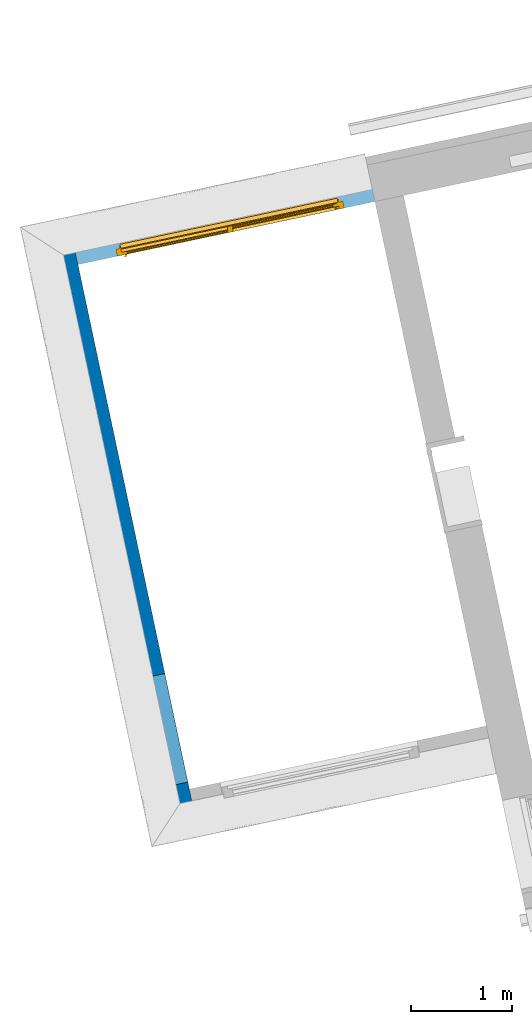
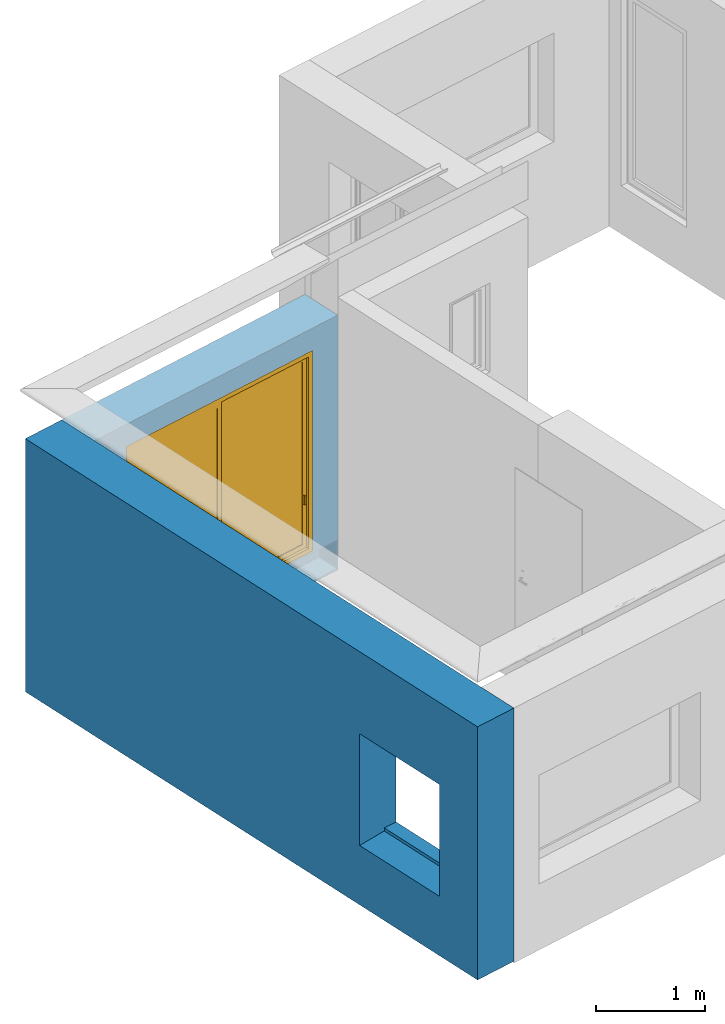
"""IFC2X3 building model written with IfcOpenShell, lengths in centimetres."""

from ifc_helpers import new_model, entity, si_unit, converted_unit, derived_unit, direction, frame, frame_2d, origin, place, context, subcontext, project, spatial, rectangle, extrude, faceted_brep, source, transform, mapped, material, material_list, layer, layer_set, layer_usage, type_object, type_shapes, element, fill, save


model = new_model("IFC2X3")

# Units and contexts
model_context = context("Model", 3, precision=0.001, world=origin(), true_north=direction((6.12303176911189e-17, 1.0)))
body_context = subcontext(model_context, "Body", "Model", "MODEL_VIEW")
ifc_project = project(units=[si_unit("LENGTHUNIT", "METRE", prefix="CENTI"), si_unit("AREAUNIT", "SQUARE_METRE"), si_unit("VOLUMEUNIT", "CUBIC_METRE"), converted_unit("PLANEANGLEUNIT", "DEGREE", entity("IfcRatioMeasure", 0.0174532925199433), si_unit("PLANEANGLEUNIT", "RADIAN"), dimensions=[0, 0, 0, 0, 0, 0, 0]), si_unit("MASSUNIT", "GRAM", prefix="KILO"), derived_unit("MASSDENSITYUNIT", [(si_unit("MASSUNIT", "GRAM", prefix="KILO"), 1), (si_unit("LENGTHUNIT", "METRE"), -3)]), derived_unit("IONCONCENTRATIONUNIT", [(si_unit("MASSUNIT", "GRAM", prefix="KILO"), 1), (si_unit("LENGTHUNIT", "METRE"), -3)]), derived_unit("MOMENTOFINERTIAUNIT", [(si_unit("LENGTHUNIT", "METRE"), 4)]), si_unit("TIMEUNIT", "SECOND"), si_unit("FREQUENCYUNIT", "HERTZ"), si_unit("THERMODYNAMICTEMPERATUREUNIT", "DEGREE_CELSIUS"), derived_unit("THERMALTRANSMITTANCEUNIT", [(si_unit("MASSUNIT", "GRAM", prefix="KILO"), 1), (si_unit("THERMODYNAMICTEMPERATUREUNIT", "KELVIN"), -1), (si_unit("TIMEUNIT", "SECOND"), -3)]), derived_unit("THERMALCONDUCTANCEUNIT", [(si_unit("MASSUNIT", "GRAM", prefix="KILO"), 1), (si_unit("THERMODYNAMICTEMPERATUREUNIT", "KELVIN"), -1), (si_unit("TIMEUNIT", "SECOND"), -3), (si_unit("LENGTHUNIT", "METRE"), 1)]), derived_unit("VOLUMETRICFLOWRATEUNIT", [(si_unit("LENGTHUNIT", "METRE"), 3), (si_unit("TIMEUNIT", "SECOND"), -1)]), derived_unit("MASSFLOWRATEUNIT", [(si_unit("MASSUNIT", "GRAM", prefix="KILO"), 1), (si_unit("TIMEUNIT", "SECOND"), -1)]), derived_unit("ROTATIONALFREQUENCYUNIT", [(si_unit("TIMEUNIT", "SECOND"), -1)]), si_unit("ELECTRICCURRENTUNIT", "AMPERE"), si_unit("ELECTRICVOLTAGEUNIT", "VOLT"), si_unit("POWERUNIT", "WATT"), si_unit("FORCEUNIT", "NEWTON", prefix="KILO"), si_unit("ILLUMINANCEUNIT", "LUX"), si_unit("LUMINOUSFLUXUNIT", "LUMEN"), si_unit("LUMINOUSINTENSITYUNIT", "CANDELA"), derived_unit("USERDEFINED", [(si_unit("MASSUNIT", "GRAM", prefix="KILO"), -1), (si_unit("LENGTHUNIT", "METRE"), -2), (si_unit("TIMEUNIT", "SECOND"), 3), (si_unit("LUMINOUSFLUXUNIT", "LUMEN"), 1)]), derived_unit("USERDEFINED", [(si_unit("MASSUNIT", "GRAM", prefix="KILO"), 1), (si_unit("TIMEUNIT", "SECOND"), -3), (si_unit("LENGTHUNIT", "METRE"), 3), (si_unit("ELECTRICCURRENTUNIT", "AMPERE"), -2)]), derived_unit("SOUNDPOWERUNIT", [(si_unit("MASSUNIT", "GRAM", prefix="KILO"), 1), (si_unit("TIMEUNIT", "SECOND"), -3), (si_unit("LENGTHUNIT", "METRE"), 2)]), derived_unit("SOUNDPRESSUREUNIT", [(si_unit("MASSUNIT", "GRAM", prefix="KILO"), 1), (si_unit("LENGTHUNIT", "METRE"), -1), (si_unit("TIMEUNIT", "SECOND"), -2)]), derived_unit("LINEARVELOCITYUNIT", [(si_unit("LENGTHUNIT", "METRE"), 1), (si_unit("TIMEUNIT", "SECOND"), -1)]), si_unit("PRESSUREUNIT", "PASCAL"), derived_unit("USERDEFINED", [(si_unit("MASSUNIT", "GRAM", prefix="KILO"), 1), (si_unit("LENGTHUNIT", "METRE"), -2), (si_unit("TIMEUNIT", "SECOND"), -2)]), derived_unit("LINEARFORCEUNIT", [(si_unit("MASSUNIT", "GRAM", prefix="KILO"), 1), (si_unit("TIMEUNIT", "SECOND"), -2)]), derived_unit("PLANARFORCEUNIT", [(si_unit("MASSUNIT", "GRAM", prefix="KILO"), 1), (si_unit("LENGTHUNIT", "METRE"), -1), (si_unit("TIMEUNIT", "SECOND"), -2)]), derived_unit("SPECIFICHEATCAPACITYUNIT", [(si_unit("THERMODYNAMICTEMPERATUREUNIT", "KELVIN"), -1), (si_unit("LENGTHUNIT", "METRE"), 2), (si_unit("TIMEUNIT", "SECOND"), -2)]), derived_unit("HEATINGVALUEUNIT", [(si_unit("LENGTHUNIT", "METRE"), 2), (si_unit("TIMEUNIT", "SECOND"), -2)]), derived_unit("VAPORPERMEABILITYUNIT", [(si_unit("LENGTHUNIT", "METRE"), -1), (si_unit("TIMEUNIT", "SECOND"), 1)]), derived_unit("DYNAMICVISCOSITYUNIT", [(si_unit("MASSUNIT", "GRAM", prefix="KILO"), 1), (si_unit("TIMEUNIT", "SECOND"), -1), (si_unit("LENGTHUNIT", "METRE"), -1)]), derived_unit("THERMALEXPANSIONCOEFFICIENTUNIT", [(si_unit("THERMODYNAMICTEMPERATUREUNIT", "KELVIN"), -1)]), derived_unit("MODULUSOFELASTICITYUNIT", [(si_unit("MASSUNIT", "GRAM", prefix="KILO"), 1), (si_unit("LENGTHUNIT", "METRE"), -1), (si_unit("TIMEUNIT", "SECOND"), -2)]), derived_unit("ISOTHERMALMOISTURECAPACITYUNIT", [(si_unit("LENGTHUNIT", "METRE"), 3), (si_unit("MASSUNIT", "GRAM", prefix="KILO"), -1)]), derived_unit("MOISTUREDIFFUSIVITYUNIT", [(si_unit("TIMEUNIT", "SECOND"), -1), (si_unit("LENGTHUNIT", "METRE"), 2)])], contexts=[model_context])

# Site, building, storey
site_placement = place(None, frame((14083.8920177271, -6853.25409548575, 6900.0), z_axis=(0.0, 0.0, 1.0), x_axis=(0.978188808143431, 0.207717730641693, 0.0)))
site = spatial("IfcSite", under=ifc_project, at=site_placement, Name="Surface", CompositionType="ELEMENT")
building_placement = place(site_placement, origin())
building = spatial("IfcBuilding", under=site, at=building_placement, CompositionType="ELEMENT")
storey_1_placement = place(building_placement, frame((0.0, 0.0, -17.0)))
storey_1 = spatial("IfcBuildingStorey", under=building, at=storey_1_placement, Name="Rez de chaussée (SD)", CompositionType="ELEMENT", Elevation=-16.9999999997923)

# Wall
ifc_material_1 = material(Name="__ PIERRE______________________TEST")
ifc_layer_1 = layer(ifc_material_1, 10.0)
ifc_material_2 = material(Name="__ BETON_parpaings")
ifc_layer_2 = layer(ifc_material_2, 20.0)
ifc_material_3 = material(Name="__ ISOLANT (pat 1)")
ifc_layer_3 = layer(ifc_material_3, 13.0)
ifc_material_4 = material(Name="__ ENDUIT_Blanc")
ifc_layer_4 = layer(ifc_material_4, 2.0)
ifc_layer_set = layer_set([ifc_layer_1, ifc_layer_2, ifc_layer_3, ifc_layer_4], Name="Mur de base:*Mur (45) maçonné isolé + parement pierre")
wall_type = type_object("IfcWallType", Name="Mur de base:*Mur (45) maçonné isolé + parement pierre", PredefinedType="STANDARD", material=ifc_layer_set)
wall_1_placement = place(storey_1_placement, frame((-8060.2551432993, 14837.6724778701, 2.0), z_axis=(0.0, 0.0, 1.0), x_axis=(0.0, 1.0, 0.0)))
element("IfcWall", 1, at=wall_1_placement, inside=storey_1, type_object=wall_type, Name="Mur de base:*Mur (45) maçonné isolé + parement pierre", ObjectType="Mur de base:*Mur (45) maçonné isolé + parement pierre", context=body_context, shape_type="Brep", body=[
    faceted_brep([(621.266666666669, -22.5000000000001, 284.0), (576.266666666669, -22.5000000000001, 284.0), (45.0, -22.5000000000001, 284.0), (0.0, -22.5000000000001, 284.0), (0.0, -22.5000000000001, 0.0), (20.0, -22.5000000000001, 0.0), (20.0, -22.5000000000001, 32.0), (45.0, -22.5000000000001, 32.0), (576.266666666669, -22.5000000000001, 32.0), (601.266666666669, -22.5000000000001, 32.0), (601.266666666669, -22.5000000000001, 0.0), (621.266666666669, -22.5000000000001, 0.0), (162.0, -22.5000000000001, 192.0), (162.0, -22.5000000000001, 72.0), (52.0, -22.5000000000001, 72.0), (52.0, -22.5000000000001, 192.0), (621.266666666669, 22.5000000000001, 0.0), (0.0, 22.5000000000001, 0.0), (0.0, 22.5000000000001, 284.0), (621.266666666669, 22.5000000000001, 284.0), (162.0, 22.5000000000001, 72.0), (162.0, 22.5000000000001, 192.0), (52.0, 22.5000000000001, 192.0), (52.0, 22.5000000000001, 72.0), (52.0, 22.5000000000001, 66.5584398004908), (162.0, 22.5000000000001, 66.5584398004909), (601.266666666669, 3.69999999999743, 0.0), (20.0, 3.70000000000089, 0.0), (20.0, 3.70000000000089, 32.0), (601.266666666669, 3.69999999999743, 32.0), (162.0, -8.0, 72.0), (162.0, -19.4999999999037, 192.0), (162.0, -19.4999999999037, 212.0), (162.0, -9.19999999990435, 212.0), (162.0, -9.19999999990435, 192.0), (162.0, -5.50251168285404, 68.5006412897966), (162.0, -8.0, 68.5006412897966), (52.0, -8.0, 72.0), (52.0, -8.0, 68.5006412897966), (52.0, -5.50251168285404, 68.5006412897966), (52.0, 10.8000000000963, 192.0), (52.0, 10.8000000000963, 192.1), (52.0, 10.7000000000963, 192.1), (52.0, 10.7000000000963, 192.0), (52.0, -9.19999999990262, 192.0), (52.0, -9.19999999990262, 212.0), (52.0, -19.4999999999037, 212.0), (52.0, -19.4999999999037, 192.0), (52.1000000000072, 10.8000000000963, 192.0), (52.1000000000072, 10.7000000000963, 192.0), (52.1000000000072, 10.7000000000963, 192.1), (52.1000000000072, 10.8000000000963, 192.1)], [[[0, 1, 2, 3, 4, 5, 6, 7, 8, 9, 10, 11], [12, 13, 14, 15]], [[16, 17, 18, 19], [20, 21, 22, 23, 24, 25]], [[17, 16, 11, 10, 26, 27, 5, 4]], [[3, 2, 1, 0, 19, 18]], [[0, 11, 16, 19]], [[4, 3, 18, 17]], [[28, 29, 9, 8, 7, 6]], [[29, 28, 27, 26]], [[29, 26, 10, 9]], [[27, 28, 6, 5]], [[30, 13, 12, 31, 32, 33, 34, 21, 20, 25, 35, 36]], [[13, 30, 37, 14]], [[14, 37, 38, 39, 24, 23, 22, 40, 41, 42, 43, 44, 45, 46, 47, 15]], [[31, 12, 15, 47]], [[36, 35, 39, 38]], [[30, 36, 38, 37]], [[39, 35, 25, 24]], [[48, 49, 50, 51]], [[42, 41, 51, 50]], [[41, 40, 48, 51]], [[43, 42, 50, 49]], [[32, 31, 47, 46]], [[33, 32, 46, 45]], [[34, 33, 45, 44]], [[21, 34, 44, 43, 49, 48, 40, 22]]]),
])

# Wall, openings
ifc_layer_usage = layer_usage(ifc_layer_set, "AXIS2", "NEGATIVE", 22.5)
wall_2_placement = place(storey_1_placement, frame((-8037.7551432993, 15436.4391445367, 0.0)))
wall_2 = element("IfcWallStandardCase", 2, at=wall_2_placement, inside=storey_1, type_object=wall_type, material=ifc_layer_usage, Name="Mur de base:*Mur (45) maçonné isolé + parement pierre", ObjectType="Mur de base:*Mur (45) maçonné isolé + parement pierre", context=body_context, shape_type="SweptSolid", body=[
    extrude(rectangle(XDim=300.800000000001, YDim=45.0000000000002, at=frame_2d((150.4, 0.0), x_axis=(-1.0, 0.0))), origin(), (0.0, 0.0, 1.0), 285.999999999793),
])
opening_1_placement = place(storey_1_placement, frame((-8037.7551432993, 15436.4391445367, 0.0)))
element("IfcOpeningElement", 3, at=opening_1_placement, cuts=wall_2, Name="Mur de base:*Mur (45) maçonné isolé + parement pierre:1", ObjectType="Opening", context=body_context, shape_type="SweptSolid", body=[
    extrude(rectangle(XDim=300.000000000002, YDim=24.9999999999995, at=frame_2d((-4.40536496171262e-13, 8.66862137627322e-13), x_axis=(1.0, 0.0))), frame((150.0, -10.0, 2.0), z_axis=(0.0, 0.0, 1.0), x_axis=(-1.0, 0.0, 0.0)), (0.0, 0.0, 1.0), 32.0),
])
opening_2_placement = place(wall_2_placement, frame((39.7999999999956, -50.0, 27.7207768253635)))
opening_2 = element("IfcOpeningElement", 4, at=opening_2_placement, cuts=wall_2, Name="Mur de base:*Mur (45) maçonné isolé + parement pierre", ObjectType="Opening", context=body_context, shape_type="Brep", body=[
    faceted_brep([(225.0, 0.0, 8.2792231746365), (225.0, 0.0, 228.279223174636), (5.0, 0.0, 228.279223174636), (5.0, 0.0, 8.2792231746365), (225.0, 27.5000000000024, 228.279223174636), (5.0, 27.5000000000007, 228.279223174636), (225.0, 27.5000000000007, 8.2792231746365), (230.0, 27.5000000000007, 8.2792231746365), (230.0, 27.5000000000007, 233.279223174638), (0.0, 27.5000000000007, 233.279223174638), (0.0, 27.5000000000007, 8.2792231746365), (5.0, 27.5000000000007, 8.2792231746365), (225.0, 35.4999999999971, 8.2792231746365), (225.0, 35.4999999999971, 6.7792231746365), (225.0, 100.0, 0.0), (225.0, 100.0, 228.279223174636), (225.0, 37.4999999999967, 228.279223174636), (225.0, 37.4999999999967, 8.2792231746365), (0.0, 34.5000000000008, 8.2792231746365), (4.0, 34.5000000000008, 8.2792231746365), (4.0, 37.4999999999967, 8.2792231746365), (5.0, 37.4999999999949, 8.27922317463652), (5.0, 35.4999999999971, 8.2792231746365), (226.0, 37.4999999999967, 8.2792231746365), (226.0, 34.5000000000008, 8.2792231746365), (230.0, 34.5000000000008, 8.2792231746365), (5.0, 100.0, 0.0), (5.0, 100.0, 228.279223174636), (5.0, 35.4999999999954, 6.7792231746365), (230.0, 34.5000000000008, 233.279223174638), (226.0, 34.5000000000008, 229.279223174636), (4.0, 34.5000000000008, 229.279223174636), (0.0, 34.5000000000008, 233.279223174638), (226.0, 37.4999999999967, 229.279223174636), (5.0, 37.4999999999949, 228.279223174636), (4.0, 37.4999999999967, 229.279223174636)], [[[0, 1, 2, 3]], [[2, 1, 4, 5]], [[6, 7, 8, 9, 10, 11, 5, 4]], [[12, 13, 14, 15, 16, 17]], [[3, 2, 5, 11]], [[0, 3, 11, 10, 18, 19, 20, 21, 22, 12, 17, 23, 24, 25, 7, 6]], [[15, 14, 26, 27]], [[14, 13, 28, 26]], [[13, 12, 22, 28]], [[7, 25, 29, 8]], [[25, 24, 30, 31, 19, 18, 32, 29]], [[24, 23, 33, 30]], [[23, 17, 16, 34, 21, 20, 35, 33]], [[8, 29, 32, 9]], [[31, 30, 33, 35]], [[32, 18, 10, 9]], [[19, 31, 35, 20]], [[27, 26, 28, 22, 21, 34]], [[1, 0, 6, 4]], [[15, 27, 34, 16]]]),
])

# Storey
storey_2_placement = place(building_placement, frame((0.0, 0.0, 17.0)))
storey_2 = spatial("IfcBuildingStorey", under=building, at=storey_2_placement, Name="Rez de chaussée", CompositionType="ELEMENT", Elevation=17.0000000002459)

# Window
ifc_material_5 = material(Name="Fenêtre - Poignée")
ifc_material_6 = material(Name="Fenêtre - Appui")
ifc_material_7 = material(Name="Fenêtre - Vitrage")
ifc_material_8 = material(Name="__ METAL_gris foncé (menuiseries acier)______________________TEST")
ifc_material_9 = material(Name="Fenêtre - Cadre")
ifc_material_list = material_list([ifc_material_5, ifc_material_6, ifc_material_7, ifc_material_8, ifc_material_9])
window_style = type_object("IfcWindowStyle", Name="2 Vantaux coulissants - Droits:c 220x220 +VR", ConstructionType="NOTDEFINED", OperationType="DOUBLE_PANEL_VERTICAL", ParameterTakesPrecedence=False, Sizeable=False, material=ifc_material_list)
shared_shape = source(origin(), body_context, "Body", "Brep", [
    faceted_brep([(222.0, -26.0, 63.2792231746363), (222.904778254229, -26.0, 63.2792231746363), (222.904778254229, -26.4999999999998, 63.2792231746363), (221.246868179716, -26.4999999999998, 63.2792231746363), (221.0, -26.2531318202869, 63.2792231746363), (221.0, -24.4999999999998, 63.2792231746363), (222.0, -24.4999999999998, 63.2792231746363), (221.0, -24.4999999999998, 73.279223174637), (221.0, -26.2531318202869, 73.279223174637), (221.246868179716, -26.4999999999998, 73.279223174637), (222.904778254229, -26.4999999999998, 73.279223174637), (222.904778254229, -26.0, 73.279223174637), (222.0, -26.0, 73.279223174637), (222.0, -24.4999999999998, 73.279223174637), (223.325663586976, -26.0, 73.1048867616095), (223.500000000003, -26.0, 72.6840014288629), (223.500000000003, -26.0, 63.8744449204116), (223.325663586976, -26.0, 63.4535595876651), (223.500000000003, -26.4999999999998, 63.8744449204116), (223.500000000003, -26.4999999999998, 72.6840014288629), (223.325663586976, -26.4999999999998, 63.4535595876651), (223.325663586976, -26.4999999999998, 73.1048867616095)], [[[0, 1, 2, 3, 4, 5, 6]], [[7, 8, 9, 10, 11, 12, 13]], [[5, 4, 8, 7]], [[6, 5, 7, 13]], [[0, 6, 13, 12]], [[1, 0, 12, 11, 14, 15, 16, 17]], [[18, 16, 15, 19]], [[20, 18, 19, 21, 10, 9, 3, 2]], [[4, 3, 9, 8]], [[10, 21, 14, 11]], [[14, 21, 19, 15]], [[18, 20, 17, 16]], [[17, 20, 2, 1]]]),
    faceted_brep([(8.75313182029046, -29.5000000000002, 63.2792231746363), (7.0952217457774, -29.5000000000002, 63.2792231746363), (7.0952217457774, -29.0, 63.2792231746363), (8.0, -29.0, 63.2792231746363), (8.0, -27.5000000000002, 63.2792231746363), (9.0, -27.5000000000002, 63.2792231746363), (9.0, -29.2531318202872, 63.2792231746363), (8.0, -27.5000000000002, 73.279223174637), (8.0, -29.0, 73.279223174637), (7.09522174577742, -29.0, 73.279223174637), (7.09522174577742, -29.5000000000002, 73.279223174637), (8.75313182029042, -29.5000000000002, 73.279223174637), (9.0, -29.2531318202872, 73.279223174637), (9.0, -27.5000000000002, 73.279223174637), (6.50000000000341, -29.0, 63.8744449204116), (6.50000000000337, -29.0, 72.6840014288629), (6.6743364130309, -29.0, 73.1048867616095), (6.67433641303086, -29.0, 63.4535595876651), (6.50000000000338, -29.5000000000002, 72.6840014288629), (6.50000000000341, -29.5000000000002, 63.8744449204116), (6.6743364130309, -29.5000000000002, 73.1048867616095), (6.67433641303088, -29.5000000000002, 63.4535595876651)], [[[0, 1, 2, 3, 4, 5, 6]], [[7, 8, 9, 10, 11, 12, 13]], [[12, 6, 5, 13]], [[13, 5, 4, 7]], [[7, 4, 3, 8]], [[14, 15, 16, 9, 8, 3, 2, 17]], [[18, 15, 14, 19]], [[1, 0, 11, 10, 20, 18, 19, 21]], [[11, 0, 6, 12]], [[9, 16, 20, 10]], [[15, 18, 20, 16]], [[14, 17, 21, 19]], [[2, 1, 21, 17]]]),
    faceted_brep([(5.0, 19.0, 3.25823129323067), (5.0, 19.0, 1.70265964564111), (5.0, 18.5000000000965, 1.75521176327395), (5.0, 18.5000000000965, 2.78526223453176), (5.0, -19.4999999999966, 6.77922317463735), (5.0, -19.4999999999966, 8.27922317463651), (5.0, -19.0, 8.27922317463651), (5.0, -19.0, 7.25219223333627), (225.0, 19.0, 3.25823129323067), (225.0, -19.0, 7.25219223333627), (225.0, -19.0, 8.27922317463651), (225.0, -19.4999999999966, 8.27922317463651), (225.0, -19.4999999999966, 6.77922317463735), (225.0, 18.5000000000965, 2.78526223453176), (225.0, 18.5000000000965, 1.75521176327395), (225.0, 19.0, 1.70265964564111)], [[[0, 1, 2, 3, 4, 5, 6, 7]], [[8, 9, 10, 11, 12, 13, 14, 15]], [[7, 9, 8, 0]], [[6, 10, 9, 7]], [[5, 11, 10, 6]], [[4, 12, 11, 5]], [[3, 13, 12, 4]], [[2, 14, 13, 3]], [[1, 15, 14, 2]], [[0, 8, 15, 1]]]),
    faceted_brep([(225.0, 18.8972579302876, 3.66847605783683), (225.0, 18.6418113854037, 3.7986325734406), (225.0, -19.0, 7.75494637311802), (225.0, -19.0, 7.25219223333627), (225.0, 19.0, 3.25823129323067), (225.0, 19.0, 3.40082381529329), (224.500000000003, 18.6418113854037, 3.7986325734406), (224.500000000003, 18.8972579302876, 3.66847605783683), (224.500000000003, 19.0, 3.40082381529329), (224.500000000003, 19.0, 3.25823129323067), (224.500000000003, -19.0, 7.25219223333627), (224.500000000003, -19.0, 7.75494637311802)], [[[0, 1, 2, 3, 4, 5]], [[6, 7, 8, 9, 10, 11]], [[9, 4, 3, 10]], [[10, 3, 2, 11]], [[11, 2, 1, 6]], [[0, 7, 6, 1]], [[5, 8, 7, 0]], [[8, 5, 4, 9]]]),
    faceted_brep([(5.50000000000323, 18.8972579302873, 3.66847605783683), (5.50000000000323, 18.6418113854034, 3.7986325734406), (5.5000000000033, -19.0, 7.75494637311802), (5.5000000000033, -19.0, 7.25219223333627), (5.50000000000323, 19.0, 3.25823129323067), (5.50000000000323, 19.0, 3.40082381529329), (5.0, 18.6418113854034, 3.7986325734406), (5.0, 18.8972579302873, 3.66847605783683), (5.0, 19.0, 3.40082381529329), (5.0, 19.0, 3.25823129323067), (5.0, -19.0, 7.25219223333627), (5.0, -19.0, 7.75494637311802)], [[[0, 1, 2, 3, 4, 5]], [[6, 7, 8, 9, 10, 11]], [[9, 4, 3, 10]], [[10, 3, 2, 11]], [[11, 2, 1, 6]], [[0, 7, 6, 1]], [[5, 8, 7, 0]], [[8, 5, 4, 9]]]),
    faceted_brep([(117.500000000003, -22.4000000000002, 223.279223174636), (220.0, -22.3999999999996, 223.279223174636), (220.0, -22.3999999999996, 18.2792231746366), (117.500000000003, -22.4000000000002, 18.2792231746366), (117.500000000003, -23.6000000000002, 18.2792231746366), (117.500000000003, -23.6000000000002, 223.279223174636), (220.0, -23.5999999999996, 18.2792231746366), (220.0, -23.5999999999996, 223.279223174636)], [[[0, 1, 2, 3]], [[3, 4, 5, 0]], [[2, 6, 4, 3]], [[1, 7, 6, 2]], [[5, 4, 6, 7]], [[0, 5, 7, 1]]]),
    faceted_brep([(112.500000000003, -21.5000000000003, 228.279223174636), (112.500000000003, -21.5000000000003, 13.2792231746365), (112.500000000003, -24.5000000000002, 13.2792231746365), (112.500000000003, -24.5000000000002, 228.279223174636), (225.0, -21.5, 13.2792231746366), (225.0, -24.4999999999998, 13.2792231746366), (225.0, -24.4999999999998, 228.279223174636), (220.0, -24.4999999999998, 18.2792231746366), (117.500000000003, -24.5000000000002, 18.2792231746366), (117.500000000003, -24.5000000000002, 223.279223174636), (220.0, -24.4999999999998, 223.279223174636), (225.0, -21.5, 228.279223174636), (117.500000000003, -21.5000000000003, 18.2792231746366), (220.0, -21.5, 18.2792231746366), (220.0, -21.5, 223.279223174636), (117.500000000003, -21.5000000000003, 223.279223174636)], [[[0, 1, 2, 3]], [[1, 4, 5, 2]], [[2, 5, 6, 3], [7, 8, 9, 10]], [[4, 11, 6, 5]], [[4, 1, 0, 11], [12, 13, 14, 15]], [[9, 8, 12, 15]], [[8, 7, 13, 12]], [[7, 10, 14, 13]], [[11, 0, 3, 6]], [[10, 9, 15, 14]]]),
    faceted_brep([(112.500000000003, -25.4000000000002, 18.2792231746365), (10.0, -25.4000000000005, 18.2792231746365), (10.0, -25.4000000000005, 223.279223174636), (112.500000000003, -25.4000000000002, 223.279223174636), (112.500000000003, -26.6000000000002, 223.279223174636), (112.500000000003, -26.6000000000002, 18.2792231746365), (10.0, -26.6000000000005, 18.2792231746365), (10.0, -26.6000000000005, 223.279223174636)], [[[0, 1, 2, 3]], [[3, 4, 5, 0]], [[1, 6, 7, 2]], [[0, 5, 6, 1]], [[5, 4, 7, 6]], [[2, 7, 4, 3]]]),
    faceted_brep([(112.500000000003, -24.5, 223.279223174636), (112.500000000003, -24.5, 18.2792231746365), (112.500000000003, -27.4999999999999, 18.2792231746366), (112.500000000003, -27.4999999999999, 223.279223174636), (10.0, -24.5000000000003, 18.2792231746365), (10.0, -27.5000000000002, 18.2792231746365), (10.0, -27.5000000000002, 223.279223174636), (5.0, -27.5000000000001, 13.2792231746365), (117.500000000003, -27.4999999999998, 13.2792231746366), (117.500000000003, -27.4999999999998, 228.279223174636), (5.0, -27.5000000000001, 228.279223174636), (10.0, -24.5000000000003, 223.279223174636), (117.500000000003, -24.5, 13.2792231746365), (5.0, -24.5000000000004, 13.2792231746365), (5.0, -24.5000000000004, 228.279223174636), (117.500000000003, -24.5, 228.279223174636)], [[[0, 1, 2, 3]], [[1, 4, 5, 2]], [[2, 5, 6, 3], [7, 8, 9, 10]], [[4, 11, 6, 5]], [[4, 1, 0, 11], [12, 13, 14, 15]], [[9, 8, 12, 15]], [[8, 7, 13, 12]], [[7, 10, 14, 13]], [[11, 0, 3, 6]], [[10, 9, 15, 14]]], outer=[[True], [True], [False, True], [True], [False, True], [True], [True], [True], [True], [True]]),
    faceted_brep([(230.0, -27.5000000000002, 8.27922317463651), (0.0, -27.5000000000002, 8.27922317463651), (0.0, -20.5000000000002, 8.27922317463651), (5.0, -20.5000000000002, 8.27922317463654), (5.0, -17.5000000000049, 8.27922317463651), (225.0, -17.5000000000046, 8.27922317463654), (225.0, -20.5000000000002, 8.27922317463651), (230.0, -20.5000000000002, 8.27922317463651), (230.0, -20.5000000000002, 233.279223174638), (230.0, -27.5000000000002, 233.279223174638), (225.0, -20.5000000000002, 12.2168374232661), (5.0, -20.5000000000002, 12.2168374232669), (0.0, -20.5000000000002, 233.279223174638), (223.500000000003, -20.5000000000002, 226.779223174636), (6.50000000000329, -20.5000000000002, 226.779223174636), (6.50000000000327, -20.5000000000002, 14.7792231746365), (223.500000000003, -20.5000000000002, 14.7792231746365), (225.0, -17.5000000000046, 7.77922317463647), (225.0, -16.5000000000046, 7.77922317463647), (225.0, -16.5000000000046, 11.1450406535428), (5.0, -17.5000000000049, 7.77922317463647), (5.0, -16.5000000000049, 11.1450406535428), (5.0, -16.5000000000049, 7.77922317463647), (0.0, -27.5000000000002, 233.279223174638), (5.0, -27.5000000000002, 228.279223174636), (225.0, -27.5000000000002, 228.279223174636), (225.0, -27.5, 13.2792231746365), (5.0, -27.5000000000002, 13.2792231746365), (223.500000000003, -21.5000000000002, 14.7792231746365), (223.500000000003, -21.5000000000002, 226.779223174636), (6.50000000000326, -21.5000000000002, 14.7792231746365), (6.50000000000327, -21.5000000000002, 226.779223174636), (5.0, -21.5000000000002, 228.279223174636), (5.0, -21.5000000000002, 13.2792231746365), (225.0, -21.5000000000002, 13.2792231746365), (225.0, -21.5000000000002, 228.279223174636)], [[[0, 1, 2, 3, 4, 5, 6, 7]], [[7, 8, 9, 0]], [[7, 6, 10, 11, 3, 2, 12, 8], [13, 14, 15, 16]], [[10, 6, 5, 17, 18, 19]], [[5, 4, 20, 17]], [[4, 3, 11, 21, 22, 20]], [[2, 1, 23, 12]], [[0, 9, 23, 1], [24, 25, 26, 27]], [[13, 16, 28, 29]], [[28, 16, 15, 30]], [[31, 30, 15, 14]], [[19, 21, 11, 10]], [[29, 28, 30, 31], [32, 33, 34, 35]], [[34, 26, 25, 35]], [[26, 34, 33, 27]], [[24, 27, 33, 32]], [[18, 22, 21, 19]], [[17, 20, 22, 18]], [[13, 29, 31, 14]], [[12, 23, 9, 8]], [[35, 25, 24, 32]]], outer=[[True], [True], [True, False], [True], [True], [True], [True], [True, False], [True], [True], [True], [True], [False, True], [True], [True], [True], [True], [True], [True], [True], [True]]),
    faceted_brep([(225.0, -17.500000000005, 8.27922317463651), (226.0, -17.500000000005, 8.27922317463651), (226.0, -20.5000000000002, 8.27922317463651), (225.0, -20.5000000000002, 8.27922317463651), (225.0, -20.5000000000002, 228.279223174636), (225.0, -17.500000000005, 228.279223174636), (226.0, -20.5000000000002, 229.279223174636), (4.0, -20.5000000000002, 229.279223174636), (4.0, -20.5000000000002, 8.27922317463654), (5.0, -20.5000000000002, 8.27922317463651), (5.0, -20.5000000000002, 228.279223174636), (226.0, -17.500000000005, 229.279223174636), (5.0, -17.500000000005, 228.279223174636), (5.0, -17.500000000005, 8.27922317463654), (4.0, -17.500000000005, 8.27922317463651), (4.0, -17.500000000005, 229.279223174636)], [[[0, 1, 2, 3]], [[3, 4, 5, 0]], [[2, 6, 7, 8, 9, 10, 4, 3]], [[1, 11, 6, 2]], [[0, 5, 12, 13, 14, 15, 11, 1]], [[10, 9, 13, 12]], [[13, 9, 8, 14]], [[15, 14, 8, 7]], [[4, 10, 12, 5]], [[11, 15, 7, 6]]]),
])
type_shapes(window_style, [shared_shape])
window_placement = place(opening_2_placement, frame((0.0, 55.0, 0.0)))
window = element("IfcWindow", 5, at=window_placement, inside=storey_2, type_object=window_style, material=ifc_material_list, Name="2 Vantaux coulissants - Droits:c 220x220 +VR", ObjectType="2 Vantaux coulissants - Droits:c 220x220 +VR", OverallHeight=233.000000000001, OverallWidth=230.000000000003, context=body_context, shape_type="MappedRepresentation", body=[
    mapped(shared_shape, transform((0.0, 0.0, 0.0), scale=1.0)),
])

fill(opening_2, window)

save(model, "model.ifc")
